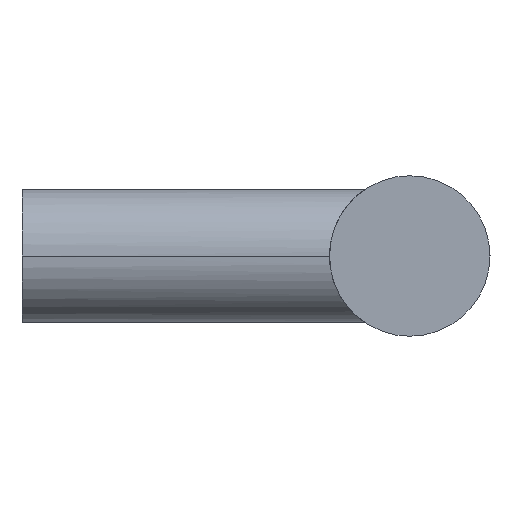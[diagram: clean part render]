
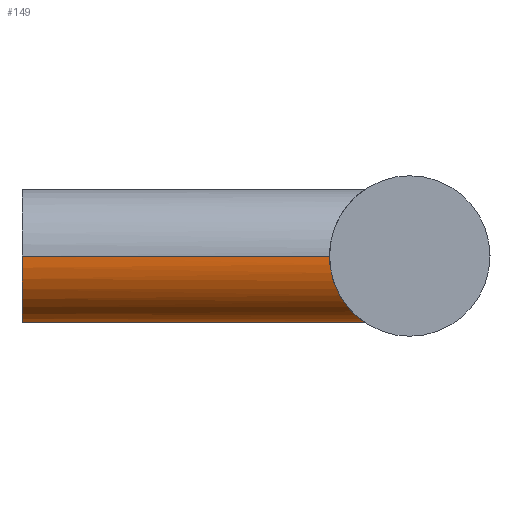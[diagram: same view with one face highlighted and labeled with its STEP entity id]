
A CAD part, left-side view. The second image highlights one B-rep face of the part: STEP entity #149.
In plain terms, the highlighted cylindrical face has radius 5 mm (diameter 10 mm), a partial arc.
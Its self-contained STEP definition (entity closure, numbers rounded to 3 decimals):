
#99 = EDGE_CURVE( '', #203, #125, #258, .T. );
#107 = VERTEX_POINT( '', #268 );
#125 = VERTEX_POINT( '', #289 );
#131 = EDGE_CURVE( '', #197, #107, #296, .T. );
#149 = ADVANCED_FACE( '', ( #317 ), #318, .T. );
#191 = EDGE_CURVE( '', #203, #107, #364, .T. );
#197 = VERTEX_POINT( '', #372 );
#201 = EDGE_CURVE( '', #197, #125, #376, .T. );
#203 = VERTEX_POINT( '', #378 );
#258 = CIRCLE( '', #427, 5. );
#268 = CARTESIAN_POINT( '', ( 5., -23., 0. ) );
#289 = CARTESIAN_POINT( '', ( -5., 0., 0. ) );
#296 = B_SPLINE_CURVE_WITH_KNOTS( '', 3, ( #470, #471, #472, #473, #474, #475, #476, #477, #478, #479, #480, #481, #482, #483, #484, #485, #486, #487, #488, #489, #490, #491, #492, #493, #494, #495, #496, #497, #498, #499, #500, #501, #502, #503 ), .UNSPECIFIED., .F., .F., ( 4, 2, 2, 2, 2, 2, 2, 2, 2, 2, 2, 2, 2, 2, 2, 2, 4 ), ( 8.161, 9.16, 10.159, 11.158, 12.157, 13.198, 14.239, 15.28, 16.322, 17.363, 18.404, 19.446, 20.487, 21.486, 22.485, 23.484, 24.483 ), .UNSPECIFIED. );
#317 = FACE_OUTER_BOUND( '', #564, .T. );
#318 = CYLINDRICAL_SURFACE( '', #565, 5. );
#364 = LINE( '', #674, #675 );
#372 = CARTESIAN_POINT( '', ( -5., -23., 0. ) );
#376 = LINE( '', #690, #691 );
#378 = CARTESIAN_POINT( '', ( 5., 0., 0. ) );
#427 = AXIS2_PLACEMENT_3D( '', #764, #765, #766 );
#470 = CARTESIAN_POINT( '', ( -5., -23., 0. ) );
#471 = CARTESIAN_POINT( '', ( -5., -23., -0.333 ) );
#472 = CARTESIAN_POINT( '', ( -4.966, -23.028, -0.672 ) );
#473 = CARTESIAN_POINT( '', ( -4.83, -23.141, -1.335 ) );
#474 = CARTESIAN_POINT( '', ( -4.728, -23.225, -1.659 ) );
#475 = CARTESIAN_POINT( '', ( -4.467, -23.437, -2.272 ) );
#476 = CARTESIAN_POINT( '', ( -4.306, -23.566, -2.561 ) );
#477 = CARTESIAN_POINT( '', ( -3.946, -23.847, -3.088 ) );
#478 = CARTESIAN_POINT( '', ( -3.745, -24., -3.326 ) );
#479 = CARTESIAN_POINT( '', ( -3.317, -24.311, -3.754 ) );
#480 = CARTESIAN_POINT( '', ( -3.073, -24.483, -3.957 ) );
#481 = CARTESIAN_POINT( '', ( -2.544, -24.825, -4.316 ) );
#482 = CARTESIAN_POINT( '', ( -2.259, -24.995, -4.472 ) );
#483 = CARTESIAN_POINT( '', ( -1.659, -25.301, -4.728 ) );
#484 = CARTESIAN_POINT( '', ( -1.343, -25.436, -4.828 ) );
#485 = CARTESIAN_POINT( '', ( -0.687, -25.627, -4.964 ) );
#486 = CARTESIAN_POINT( '', ( -0.347, -25.683, -5. ) );
#487 = CARTESIAN_POINT( '', ( 0.347, -25.683, -5. ) );
#488 = CARTESIAN_POINT( '', ( 0.687, -25.627, -4.964 ) );
#489 = CARTESIAN_POINT( '', ( 1.343, -25.436, -4.828 ) );
#490 = CARTESIAN_POINT( '', ( 1.659, -25.301, -4.728 ) );
#491 = CARTESIAN_POINT( '', ( 2.259, -24.995, -4.472 ) );
#492 = CARTESIAN_POINT( '', ( 2.544, -24.825, -4.316 ) );
#493 = CARTESIAN_POINT( '', ( 3.073, -24.483, -3.957 ) );
#494 = CARTESIAN_POINT( '', ( 3.317, -24.311, -3.754 ) );
#495 = CARTESIAN_POINT( '', ( 3.745, -24., -3.326 ) );
#496 = CARTESIAN_POINT( '', ( 3.946, -23.847, -3.088 ) );
#497 = CARTESIAN_POINT( '', ( 4.306, -23.566, -2.561 ) );
#498 = CARTESIAN_POINT( '', ( 4.467, -23.437, -2.272 ) );
#499 = CARTESIAN_POINT( '', ( 4.728, -23.225, -1.659 ) );
#500 = CARTESIAN_POINT( '', ( 4.83, -23.141, -1.335 ) );
#501 = CARTESIAN_POINT( '', ( 4.966, -23.028, -0.672 ) );
#502 = CARTESIAN_POINT( '', ( 5., -23., -0.333 ) );
#503 = CARTESIAN_POINT( '', ( 5., -23., 0. ) );
#564 = EDGE_LOOP( '', ( #841, #842, #843, #844 ) );
#565 = AXIS2_PLACEMENT_3D( '', #845, #846, #847 );
#674 = CARTESIAN_POINT( '', ( 5., 0., 0. ) );
#675 = VECTOR( '', #904, 1. );
#690 = CARTESIAN_POINT( '', ( -5., 0., 0. ) );
#691 = VECTOR( '', #914, 1. );
#764 = CARTESIAN_POINT( '', ( 0., 0., 0. ) );
#765 = DIRECTION( '', ( 0., 1., 0. ) );
#766 = DIRECTION( '', ( 1., 0., 0. ) );
#841 = ORIENTED_EDGE( '', *, *, #191, .T. );
#842 = ORIENTED_EDGE( '', *, *, #131, .F. );
#843 = ORIENTED_EDGE( '', *, *, #201, .T. );
#844 = ORIENTED_EDGE( '', *, *, #99, .F. );
#845 = CARTESIAN_POINT( '', ( 0., 0., 0. ) );
#846 = DIRECTION( '', ( 0., 1., 0. ) );
#847 = DIRECTION( '', ( 1., 0., 0. ) );
#904 = DIRECTION( '', ( 0., -1., 0. ) );
#914 = DIRECTION( '', ( 0., 1., 0. ) );
